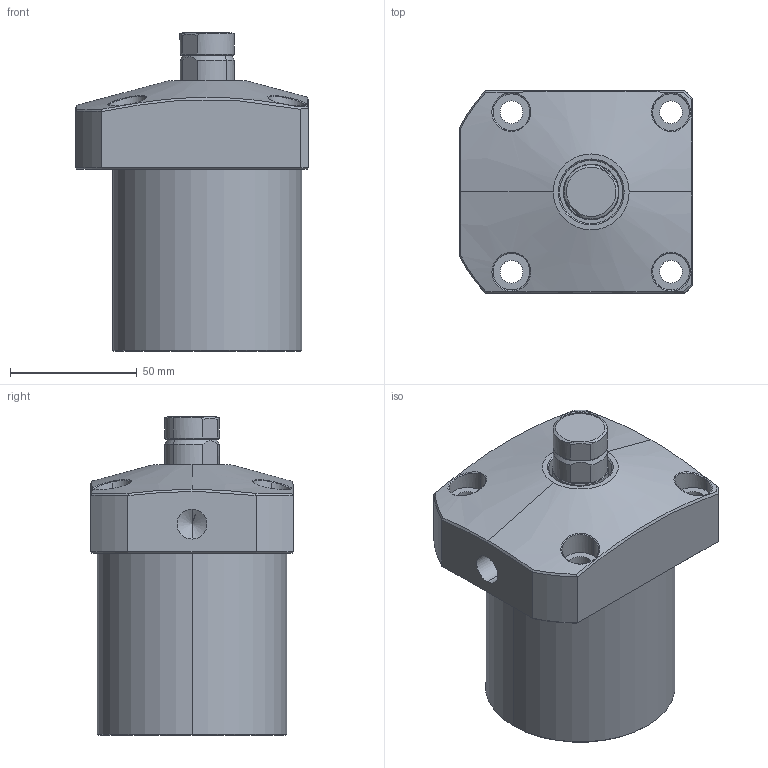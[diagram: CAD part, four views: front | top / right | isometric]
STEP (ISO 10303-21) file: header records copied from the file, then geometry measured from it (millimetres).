
FILE_DESCRIPTION (( 'STEP AP214' ), '1' );
FILE_NAME ('FW10-0775.STEP', '2020-08-07T04:59:17', ( '' ), ( '' ), 'SwSTEP 2.0', 'SolidWorks 2019', '' );
FILE_SCHEMA (( 'AUTOMOTIVE_DESIGN' ));
Length unit declared in the file: millimetre
Products named in the file (4): FW10-0775; 654-PLUNGER; 755-PAD; FW10-0755-BODY
Assembly tree (3 placements, depth 2):
  FW10-0775
    FW10-0755-BODY
    654-PLUNGER
    755-PAD
Bounding box: 92 x 80 x 126 mm (x, y, z)
Volume: 522939.8 mm3; surface area: 53302.9 mm2
Topology: 3 solids, 3 shells, 135 faces, 316 edges, 195 vertices
Faces by surface type: cone 42, cylinder 41, plane 36, bspline 16
Entity records: 12664 total; most frequent: CARTESIAN_POINT 9495, ORIENTED_EDGE 624, DIRECTION 589, EDGE_CURVE 312, AXIS2_PLACEMENT_3D 240, VERTEX_POINT 195, EDGE_LOOP 155, FACE_OUTER_BOUND 135
